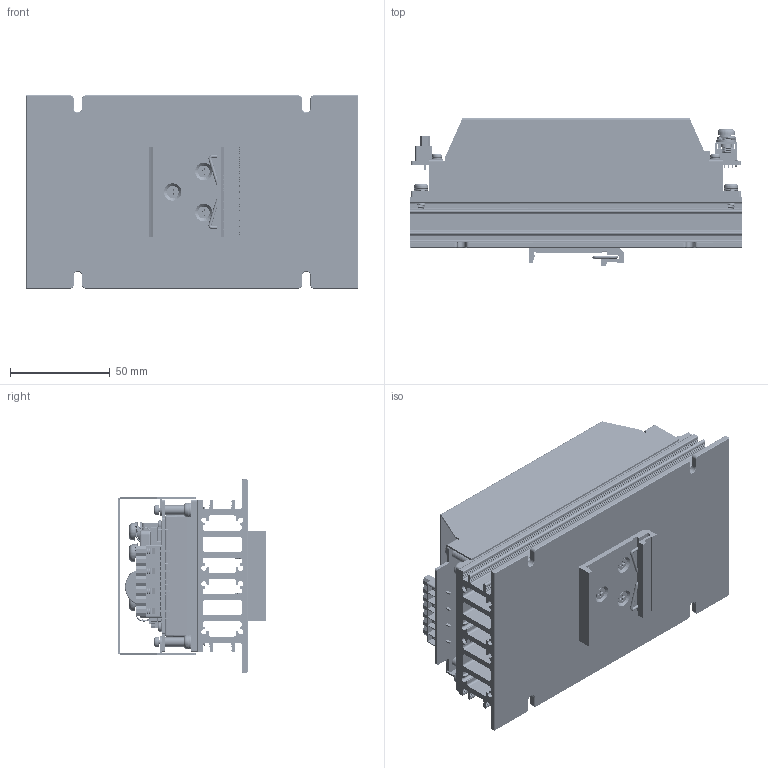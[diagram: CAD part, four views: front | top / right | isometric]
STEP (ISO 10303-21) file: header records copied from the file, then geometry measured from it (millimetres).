
FILE_DESCRIPTION (( 'STEP AP203' ), '1' );
FILE_NAME ('CHB300-300S CMFD HD 5V 2024.04.22.STEP', '2024-04-26T09:14:45', ( '' ), ( '' ), 'SwSTEP 2.0', 'SolidWorks 2020', '' );
FILE_SCHEMA (( 'CONFIG_CONTROL_DESIGN' ));
Products named in the file (1): CHB300-300S CMFD HD 5V 2024.04.22
Bounding box: 166 x 74.1 x 96.52 mm (x, y, z)
Volume: 313193.4 mm3; surface area: 227629.1 mm2
Topology: 14 solids, 44 shells, 3518 faces, 12013 edges, 7883 vertices
Faces by surface type: plane 1903, cylinder 975, bspline 354, cone 155, torus 92, sphere 39
Full cylindrical faces by diameter (mm): 0.7 x16, 0.78 x2, 0.8 x4, 1 x13, 1.2 x5, 1.5 x8, 2 x5, 2.2 x8, 2.9 x8, 3 x7, 3.2 x10, 3.239 x3, 3.25 x1, 3.264 x1, 3.8 x4, 3.85 x3, 3.9 x27, 4 x5, 4.2 x7, 4.3 x4, 4.45 x4, 4.5 x4, 4.6 x4, 4.7 x8, 5 x12, 5.3 x4, 5.5 x4, 6 x3, 7 x4, 10 x4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
Entity records: 274030 total; most frequent: CARTESIAN_POINT 180484, ORIENTED_EDGE 22770, DIRECTION 15482, EDGE_CURVE 11385, VERTEX_POINT 7662, LINE 5322, VECTOR 5322, AXIS2_PLACEMENT_3D 5080
